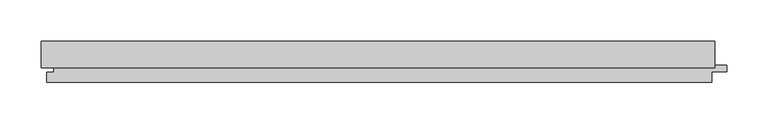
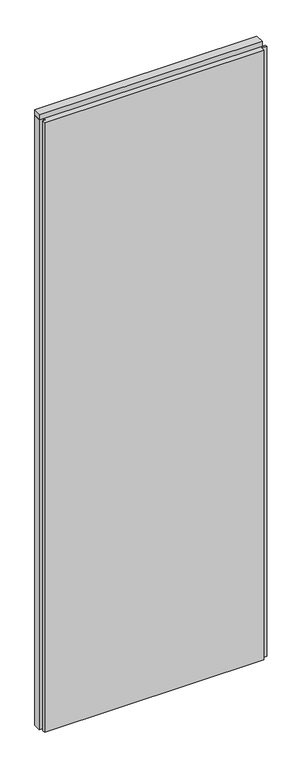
"""IFC4 building model written with IfcOpenShell, lengths in millimetres: plate geometry, Trimo_Qbiss Screen_Normal Panel-VERTICAL : HR - FB-F."""

from ifc_helpers import new_model, si_unit, frame, origin, place, context, project, spatial, polyline, outline, extrude, source, transform, mapped, element, save


def plate_c43224f7(model_context):
    return source(origin(), model_context, "Body", "SweptSolid", [
        extrude(outline(polyline([(-351.0, 93.9), (-351.0, 126.0), (467.0, 126.0), (467.0, 93.9), (-351.0, 93.9)])), frame((0.0, 0.0, 2390.5), z_axis=(0.0, 0.0, 1.0), x_axis=(1.0, 0.0, 0.0)), (0.0, 0.0, 1.0), 19.0),
        extrude(outline(polyline([(463.0, 97.0), (481.5, 97.0), (481.5, 89.0), (463.0, 89.0), (463.0, 76.0), (-344.0, 76.0), (-344.0, 88.0), (-335.5, 88.0), (-335.5, 98.0), (-351.0, 98.0), (-351.0, 126.0), (463.0, 126.0), (463.0, 97.0)])), frame((0.0, 0.0, 12.5), z_axis=(0.0, 0.0, 1.0), x_axis=(1.0, 0.0, 0.0)), (0.0, 0.0, 1.0), 2375.0),
    ])


if __name__ == "__main__":
    model = new_model("IFC4")
    model_context = context("Model", 3, world=origin())
    ifc_project = project(units=[si_unit("LENGTHUNIT", "METRE", prefix="MILLI")], contexts=[model_context])
    site = spatial("IfcSite", under=ifc_project)
    building = spatial("IfcBuilding", under=site)
    placement = place(None, origin())
    plate_shape = plate_c43224f7(model_context)
    element("IfcPlate", 1, ObjectType="Trimo_Qbiss Screen_Normal Panel-VERTICAL : HR - FB-F", at=placement, inside=building, context=model_context, shape_type="MappedRepresentation", body=[
        mapped(plate_shape, transform((0.0, 0.0, 0.0), x_axis=(1.0, 0.0, 0.0), y_axis=(0.0, 1.0, 0.0), z_axis=(0.0, 0.0, 1.0))),
    ])
    save(model, "model.ifc")
